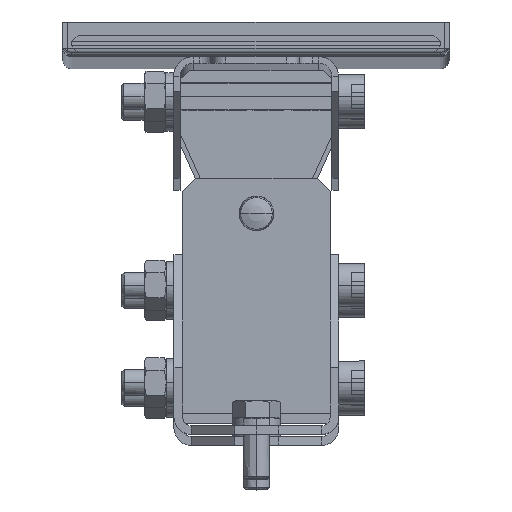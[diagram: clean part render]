
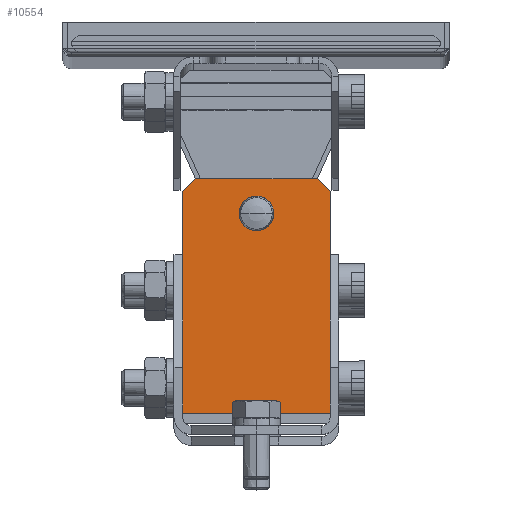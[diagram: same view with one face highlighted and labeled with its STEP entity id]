
A CAD part, top view. The second image highlights one B-rep face of the part: STEP entity #10554.
In plain terms, the highlighted planar face has unit normal (0, 0, 1) as drawn and (0, -1, 0) by its records, which use the part's own axes.
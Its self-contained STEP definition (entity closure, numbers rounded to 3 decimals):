
#9953=DIRECTION('',(-0.707,0.,0.707));
#9954=VECTOR('',#9953,4.243);
#9955=CARTESIAN_POINT('',(-28.099,-67.192,-31.));
#9956=LINE('',#9955,#9954);
#9960=DIRECTION('',(0.,0.,1.));
#9961=VECTOR('',#9960,51.);
#9962=CARTESIAN_POINT('',(-28.099,-67.192,-82.));
#9963=LINE('',#9962,#9961);
#9967=DIRECTION('',(1.,0.,0.));
#9968=VECTOR('',#9967,34.);
#9969=CARTESIAN_POINT('',(-62.099,-67.192,-82.));
#9970=LINE('',#9969,#9968);
#9974=DIRECTION('',(0.,0.,-1.));
#9975=VECTOR('',#9974,51.);
#9976=CARTESIAN_POINT('',(-62.099,-67.192,-31.));
#9977=LINE('',#9976,#9975);
#9981=DIRECTION('',(-0.707,0.,-0.707));
#9982=VECTOR('',#9981,4.243);
#9983=CARTESIAN_POINT('',(-59.099,-67.192,-28.));
#9984=LINE('',#9983,#9982);
#9988=DIRECTION('',(-1.,0.,0.));
#9989=VECTOR('',#9988,28.);
#9990=CARTESIAN_POINT('',(-31.099,-67.192,-28.));
#9991=LINE('',#9990,#9989);
#9995=CARTESIAN_POINT('',(-41.099,-67.192,-36.));
#9996=CARTESIAN_POINT('',(-41.099,-67.192,
-36.331));
#9997=CARTESIAN_POINT('',(-41.179,-67.192,
-36.971));
#9998=CARTESIAN_POINT('',(-41.526,-67.192,
-37.885));
#9999=CARTESIAN_POINT('',(-42.083,-67.192,
-38.685));
#10000=CARTESIAN_POINT('',(-42.799,-67.192,
-39.319));
#10001=CARTESIAN_POINT('',(-43.656,-67.192,
-39.772));
#10002=CARTESIAN_POINT('',(-44.599,-67.192,
-40.008));
#10003=CARTESIAN_POINT('',(-45.568,-67.192,
-40.011));
#10004=CARTESIAN_POINT('',(-46.511,-67.192,
-39.784));
#10005=CARTESIAN_POINT('',(-47.373,-67.192,
-39.337));
#10006=CARTESIAN_POINT('',(-48.101,-67.192,
-38.703));
#10007=CARTESIAN_POINT('',(-48.668,-67.192,
-37.896));
#10008=CARTESIAN_POINT('',(-49.02,-67.192,
-36.973));
#10009=CARTESIAN_POINT('',(-49.099,-67.192,
-36.332));
#10010=CARTESIAN_POINT('',(-49.099,-67.192,-36.));
#10015=CARTESIAN_POINT('',(-49.099,-67.192,-36.));
#10016=CARTESIAN_POINT('',(-49.099,-67.192,
-35.669));
#10017=CARTESIAN_POINT('',(-49.02,-67.192,
-35.029));
#10018=CARTESIAN_POINT('',(-48.673,-67.192,
-34.115));
#10019=CARTESIAN_POINT('',(-48.116,-67.192,
-33.315));
#10020=CARTESIAN_POINT('',(-47.4,-67.192,
-32.681));
#10021=CARTESIAN_POINT('',(-46.543,-67.192,
-32.228));
#10022=CARTESIAN_POINT('',(-45.6,-67.192,
-31.992));
#10023=CARTESIAN_POINT('',(-44.631,-67.192,
-31.989));
#10024=CARTESIAN_POINT('',(-43.688,-67.192,
-32.216));
#10025=CARTESIAN_POINT('',(-42.826,-67.192,
-32.663));
#10026=CARTESIAN_POINT('',(-42.098,-67.192,
-33.297));
#10027=CARTESIAN_POINT('',(-41.531,-67.192,
-34.104));
#10028=CARTESIAN_POINT('',(-41.179,-67.192,
-35.027));
#10029=CARTESIAN_POINT('',(-41.099,-67.192,
-35.668));
#10030=CARTESIAN_POINT('',(-41.099,-67.192,-36.));
#10368=CARTESIAN_POINT('',(-28.099,-67.192,-31.));
#10370=VERTEX_POINT('',#10368);
#10372=CARTESIAN_POINT('',(-28.099,-67.192,-82.));
#10373=VERTEX_POINT('',#10372);
#10378=CARTESIAN_POINT('',(-62.099,-67.192,-82.));
#10379=VERTEX_POINT('',#10378);
#10381=CARTESIAN_POINT('',(-62.099,-67.192,-31.));
#10383=VERTEX_POINT('',#10381);
#10384=CARTESIAN_POINT('',(-59.099,-67.192,-28.));
#10385=VERTEX_POINT('',#10384);
#10389=CARTESIAN_POINT('',(-31.099,-67.192,-28.));
#10391=VERTEX_POINT('',#10389);
#10408=CARTESIAN_POINT('',(-49.099,-67.192,-36.));
#10409=VERTEX_POINT('',#10408);
#10410=CARTESIAN_POINT('',(-41.099,-67.192,-36.));
#10411=VERTEX_POINT('',#10410);
#10530=CARTESIAN_POINT('',(-45.099,-67.192,-55.));
#10531=DIRECTION('',(0.,1.,0.));
#10532=DIRECTION('',(-1.,0.,0.));
#10533=AXIS2_PLACEMENT_3D('',#10530,#10531,#10532);
#10534=PLANE('',#10533);
#10535=ORIENTED_EDGE('',*,*,#10513,.F.);
#10537=ORIENTED_EDGE('',*,*,#10536,.F.);
#10539=ORIENTED_EDGE('',*,*,#10538,.F.);
#10541=ORIENTED_EDGE('',*,*,#10540,.F.);
#10543=ORIENTED_EDGE('',*,*,#10542,.F.);
#10545=ORIENTED_EDGE('',*,*,#10544,.F.);
#10546=EDGE_LOOP('',(#10535,#10537,#10539,#10541,#10543,#10545));
#10547=FACE_OUTER_BOUND('',#10546,.F.);
#10549=ORIENTED_EDGE('',*,*,#10548,.F.);
#10551=ORIENTED_EDGE('',*,*,#10550,.F.);
#10552=EDGE_LOOP('',(#10549,#10551));
#10553=FACE_BOUND('',#10552,.F.);
#10554=ADVANCED_FACE('',(#10547,#10553),#10534,.F.);
#10011=B_SPLINE_CURVE_WITH_KNOTS('',3,(#9995,#9996,#9997,#9998,#9999,#10000,
#10001,#10002,#10003,#10004,#10005,#10006,#10007,#10008,#10009,#10010),
.UNSPECIFIED.,.F.,.F.,(4,1,1,1,1,1,1,1,1,1,1,1,1,4),(0.,0.077,
0.154,0.231,0.308,0.385,
0.462,0.538,0.615,0.692,
0.769,0.846,0.923,1.),.UNSPECIFIED.);
#10031=B_SPLINE_CURVE_WITH_KNOTS('',3,(#10015,#10016,#10017,#10018,#10019,
#10020,#10021,#10022,#10023,#10024,#10025,#10026,#10027,#10028,#10029,#10030),
.UNSPECIFIED.,.F.,.F.,(4,1,1,1,1,1,1,1,1,1,1,1,1,4),(0.,0.077,
0.154,0.231,0.308,0.385,
0.462,0.538,0.615,0.692,
0.769,0.846,0.923,1.),.UNSPECIFIED.);
#10513=EDGE_CURVE('',#10370,#10391,#9956,.T.);
#10536=EDGE_CURVE('',#10373,#10370,#9963,.T.);
#10538=EDGE_CURVE('',#10379,#10373,#9970,.T.);
#10540=EDGE_CURVE('',#10383,#10379,#9977,.T.);
#10542=EDGE_CURVE('',#10385,#10383,#9984,.T.);
#10544=EDGE_CURVE('',#10391,#10385,#9991,.T.);
#10548=EDGE_CURVE('',#10411,#10409,#10011,.T.);
#10550=EDGE_CURVE('',#10409,#10411,#10031,.T.);
